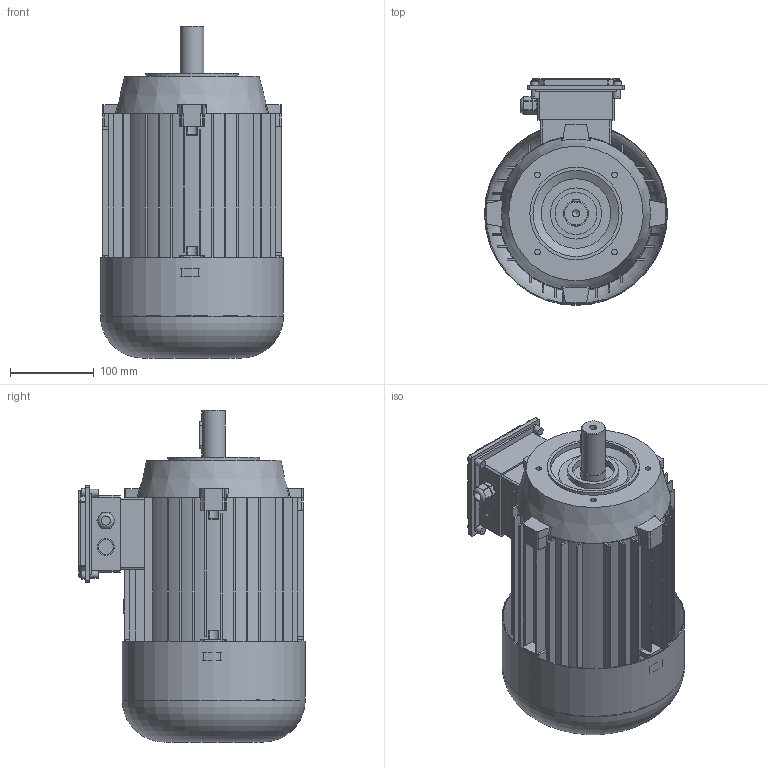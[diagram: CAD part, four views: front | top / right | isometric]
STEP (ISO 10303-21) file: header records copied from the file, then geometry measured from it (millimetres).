
FILE_DESCRIPTION(/* description */ (''),/* implementation_level */ '2;1');
FILE_NAME(/* name */ 'C:\Users\Public\Documents\Autodesk\Inventor LT 2014\Workspace\Componenti_ecoPM\4 - ECO_112 (TG6)\ECO5_112_xxA4.stp',/* time_stamp */ '2021-07-28T16:00:53+02:00',/* author */ ('marcor'),/* organization */ (''),/* preprocessor_version */ 'ST-DEVELOPER v15.2',/* originating_system */ 'Autodesk Inventor LT ',/* authorisation */ '');
FILE_SCHEMA (('AUTOMOTIVE_DESIGN { 1 0 10303 214 3 1 1 }'));
Length unit declared in the file: millimetre
Products named in the file (1): ECO5_112_xx_B14_FULL
Bounding box: 218 x 269.8 x 395.5 mm (x, y, z)
Volume: 7807258.4 mm3; surface area: 590090.9 mm2
Topology: 1 solids, 5 shells, 547 faces, 1464 edges, 952 vertices
Faces by surface type: plane 302, cylinder 186, cone 23, bspline 17, torus 11, sphere 8
Full cylindrical faces by diameter (mm): 4.134 x4, 4.2 x4, 6.647 x5, 8.376 x1, 9 x4, 9.5 x4, 11 x1, 16 x2, 16.9 x1, 17.294 x1, 18 x2, 20 x1, 28 x1, 30 x1, 50 x2, 54.9 x1, 60.8 x1, 102.5 x1, 110 x1, 158.914 x1, 216 x1, 218 x1
Entity records: 17753 total; most frequent: CARTESIAN_POINT 4422, ORIENTED_EDGE 2746, DIRECTION 2742, EDGE_CURVE 1369, AXIS2_PLACEMENT_3D 986, VERTEX_POINT 923, LINE 770, VECTOR 770
